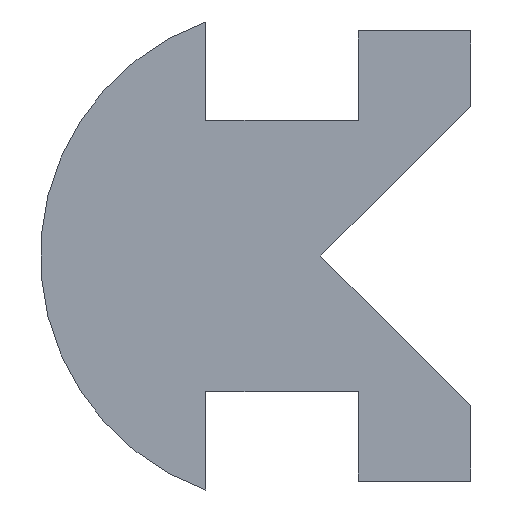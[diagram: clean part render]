
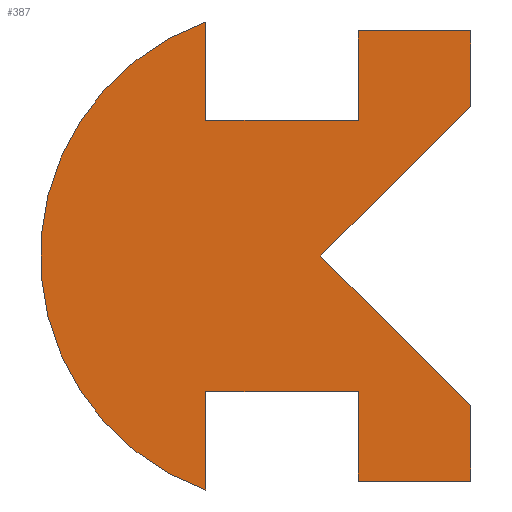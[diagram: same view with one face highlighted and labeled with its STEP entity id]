
A CAD part, left-side view. The second image highlights one B-rep face of the part: STEP entity #387.
In plain terms, the highlighted planar face has unit normal (-1, 0, 0).
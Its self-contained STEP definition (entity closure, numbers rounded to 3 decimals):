
#9 = CARTESIAN_POINT ( 'NONE',  ( 0., -6.172, -6.931 ) ) ;
#13 = CARTESIAN_POINT ( 'NONE',  ( 0., -0.672, -0.131 ) ) ;
#22 = DIRECTION ( 'NONE',  ( 0., 0., 1. ) ) ;
#26 = LINE ( 'NONE', #518, #492 ) ;
#41 = CARTESIAN_POINT ( 'NONE',  ( 0., -6.172, -6.931 ) ) ;
#42 = CARTESIAN_POINT ( 'NONE',  ( 0., 1.828, -4.231 ) ) ;
#43 = CARTESIAN_POINT ( 'NONE',  ( 0., 1.828, 3.969 ) ) ;
#50 = VERTEX_POINT ( 'NONE', #171 ) ;
#56 = ORIENTED_EDGE ( 'NONE', *, *, #513, .F. ) ;
#58 = VERTEX_POINT ( 'NONE', #611 ) ;
#71 = CARTESIAN_POINT ( 'NONE',  ( 0., 1.828, 3.969 ) ) ;
#75 = CARTESIAN_POINT ( 'NONE',  ( 0., -1.644, -0.131 ) ) ;
#80 = CARTESIAN_POINT ( 'NONE',  ( 0., -2.772, -4.231 ) ) ;
#85 = ORIENTED_EDGE ( 'NONE', *, *, #613, .F. ) ;
#86 = EDGE_CURVE ( 'NONE', #365, #705, #286, .T. ) ;
#87 = DIRECTION ( 'NONE',  ( 0., 0., -1. ) ) ;
#90 = VECTOR ( 'NONE', #124, 1000. ) ;
#91 = VECTOR ( 'NONE', #87, 1000. ) ;
#92 = AXIS2_PLACEMENT_3D ( 'NONE', #551, #677, #371 ) ;
#106 = AXIS2_PLACEMENT_3D ( 'NONE', #13, #201, #220 ) ;
#112 = LINE ( 'NONE', #151, #215 ) ;
#117 = VECTOR ( 'NONE', #600, 1000. ) ;
#119 = CARTESIAN_POINT ( 'NONE',  ( 0., -6.172, 4.397 ) ) ;
#120 = CARTESIAN_POINT ( 'NONE',  ( 0., -2.772, -6.931 ) ) ;
#124 = DIRECTION ( 'NONE',  ( 0., 1., 0. ) ) ;
#126 = ORIENTED_EDGE ( 'NONE', *, *, #632, .F. ) ;
#135 = LINE ( 'NONE', #280, #174 ) ;
#145 = PLANE ( 'NONE',  #92 ) ;
#151 = CARTESIAN_POINT ( 'NONE',  ( 0., -2.772, 6.669 ) ) ;
#155 = CARTESIAN_POINT ( 'NONE',  ( 0., -2.772, -4.231 ) ) ;
#166 = DIRECTION ( 'NONE',  ( 0., 0., -1. ) ) ;
#171 = CARTESIAN_POINT ( 'NONE',  ( 0., -6.172, 4.397 ) ) ;
#173 = DIRECTION ( 'NONE',  ( 0., 0., -1. ) ) ;
#174 = VECTOR ( 'NONE', #569, 1000. ) ;
#178 = VECTOR ( 'NONE', #320, 1000. ) ;
#201 = DIRECTION ( 'NONE',  ( 1., 0., 0. ) ) ;
#206 = EDGE_CURVE ( 'NONE', #421, #365, #418, .T. ) ;
#210 = DIRECTION ( 'NONE',  ( 0., -1., 0. ) ) ;
#215 = VECTOR ( 'NONE', #262, 1000. ) ;
#220 = DIRECTION ( 'NONE',  ( 0., 0., -1. ) ) ;
#238 = VERTEX_POINT ( 'NONE', #41 ) ;
#240 = CARTESIAN_POINT ( 'NONE',  ( 0., -1.644, -0.131 ) ) ;
#250 = VERTEX_POINT ( 'NONE', #702 ) ;
#254 = EDGE_CURVE ( 'NONE', #58, #250, #112, .T. ) ;
#255 = ORIENTED_EDGE ( 'NONE', *, *, #254, .F. ) ;
#256 = ORIENTED_EDGE ( 'NONE', *, *, #424, .F. ) ;
#262 = DIRECTION ( 'NONE',  ( 0., -1., 0. ) ) ;
#266 = LINE ( 'NONE', #9, #178 ) ;
#269 = CARTESIAN_POINT ( 'NONE',  ( 0., -2.772, 3.969 ) ) ;
#280 = CARTESIAN_POINT ( 'NONE',  ( 0., -6.172, 6.669 ) ) ;
#285 = VERTEX_POINT ( 'NONE', #75 ) ;
#286 = LINE ( 'NONE', #629, #91 ) ;
#292 = FACE_OUTER_BOUND ( 'NONE', #590, .T. ) ;
#297 = VECTOR ( 'NONE', #166, 1000. ) ;
#320 = DIRECTION ( 'NONE',  ( 0., 1., 0. ) ) ;
#326 = VERTEX_POINT ( 'NONE', #120 ) ;
#329 = DIRECTION ( 'NONE',  ( 0., -0.707, -0.707 ) ) ;
#340 = LINE ( 'NONE', #616, #522 ) ;
#343 = LINE ( 'NONE', #240, #399 ) ;
#355 = VERTEX_POINT ( 'NONE', #155 ) ;
#358 = ORIENTED_EDGE ( 'NONE', *, *, #86, .F. ) ;
#365 = VERTEX_POINT ( 'NONE', #639 ) ;
#371 = DIRECTION ( 'NONE',  ( 0., 0., -1. ) ) ;
#375 = LINE ( 'NONE', #119, #694 ) ;
#379 = EDGE_CURVE ( 'NONE', #705, #479, #480, .T. ) ;
#387 = ADVANCED_FACE ( 'NONE', ( #292 ), #145, .F. ) ;
#391 = LINE ( 'NONE', #269, #117 ) ;
#399 = VECTOR ( 'NONE', #329, 1000. ) ;
#410 = EDGE_CURVE ( 'NONE', #479, #58, #391, .T. ) ;
#418 = CIRCLE ( 'NONE', #106, 7.5 ) ;
#421 = VERTEX_POINT ( 'NONE', #542 ) ;
#423 = ORIENTED_EDGE ( 'NONE', *, *, #624, .F. ) ;
#424 = EDGE_CURVE ( 'NONE', #238, #326, #266, .T. ) ;
#434 = CARTESIAN_POINT ( 'NONE',  ( 0., -2.772, 3.969 ) ) ;
#479 = VERTEX_POINT ( 'NONE', #434 ) ;
#480 = LINE ( 'NONE', #43, #523 ) ;
#482 = ORIENTED_EDGE ( 'NONE', *, *, #379, .F. ) ;
#491 = EDGE_CURVE ( 'NONE', #653, #421, #671, .T. ) ;
#492 = VECTOR ( 'NONE', #173, 1000. ) ;
#508 = LINE ( 'NONE', #80, #90 ) ;
#512 = ORIENTED_EDGE ( 'NONE', *, *, #577, .F. ) ;
#513 = EDGE_CURVE ( 'NONE', #50, #285, #375, .T. ) ;
#518 = CARTESIAN_POINT ( 'NONE',  ( 0., -6.172, -4.66 ) ) ;
#522 = VECTOR ( 'NONE', #22, 1000. ) ;
#523 = VECTOR ( 'NONE', #210, 1000. ) ;
#528 = ORIENTED_EDGE ( 'NONE', *, *, #553, .F. ) ;
#532 = ORIENTED_EDGE ( 'NONE', *, *, #206, .F. ) ;
#542 = CARTESIAN_POINT ( 'NONE',  ( 0., 1.828, -7.202 ) ) ;
#551 = CARTESIAN_POINT ( 'NONE',  ( 0., -0.672, -0.131 ) ) ;
#553 = EDGE_CURVE ( 'NONE', #285, #570, #343, .T. ) ;
#562 = ORIENTED_EDGE ( 'NONE', *, *, #410, .F. ) ;
#569 = DIRECTION ( 'NONE',  ( 0., 0., -1. ) ) ;
#570 = VERTEX_POINT ( 'NONE', #628 ) ;
#577 = EDGE_CURVE ( 'NONE', #570, #238, #26, .T. ) ;
#587 = ORIENTED_EDGE ( 'NONE', *, *, #491, .F. ) ;
#590 = EDGE_LOOP ( 'NONE', ( #562, #482, #358, #532, #587, #126, #423, #256, #512, #528, #56, #85, #255 ) ) ;
#600 = DIRECTION ( 'NONE',  ( 0., 0., 1. ) ) ;
#602 = DIRECTION ( 'NONE',  ( 0., 0.707, -0.707 ) ) ;
#611 = CARTESIAN_POINT ( 'NONE',  ( 0., -2.772, 6.669 ) ) ;
#613 = EDGE_CURVE ( 'NONE', #250, #50, #135, .T. ) ;
#616 = CARTESIAN_POINT ( 'NONE',  ( 0., -2.772, -6.931 ) ) ;
#624 = EDGE_CURVE ( 'NONE', #326, #355, #340, .T. ) ;
#628 = CARTESIAN_POINT ( 'NONE',  ( 0., -6.172, -4.66 ) ) ;
#629 = CARTESIAN_POINT ( 'NONE',  ( 0., 1.828, 6.94 ) ) ;
#632 = EDGE_CURVE ( 'NONE', #355, #653, #508, .T. ) ;
#639 = CARTESIAN_POINT ( 'NONE',  ( 0., 1.828, 6.94 ) ) ;
#653 = VERTEX_POINT ( 'NONE', #42 ) ;
#666 = CARTESIAN_POINT ( 'NONE',  ( 0., 1.828, -4.231 ) ) ;
#671 = LINE ( 'NONE', #666, #297 ) ;
#677 = DIRECTION ( 'NONE',  ( 1., 0., 0. ) ) ;
#694 = VECTOR ( 'NONE', #602, 1000. ) ;
#702 = CARTESIAN_POINT ( 'NONE',  ( 0., -6.172, 6.669 ) ) ;
#705 = VERTEX_POINT ( 'NONE', #71 ) ;
